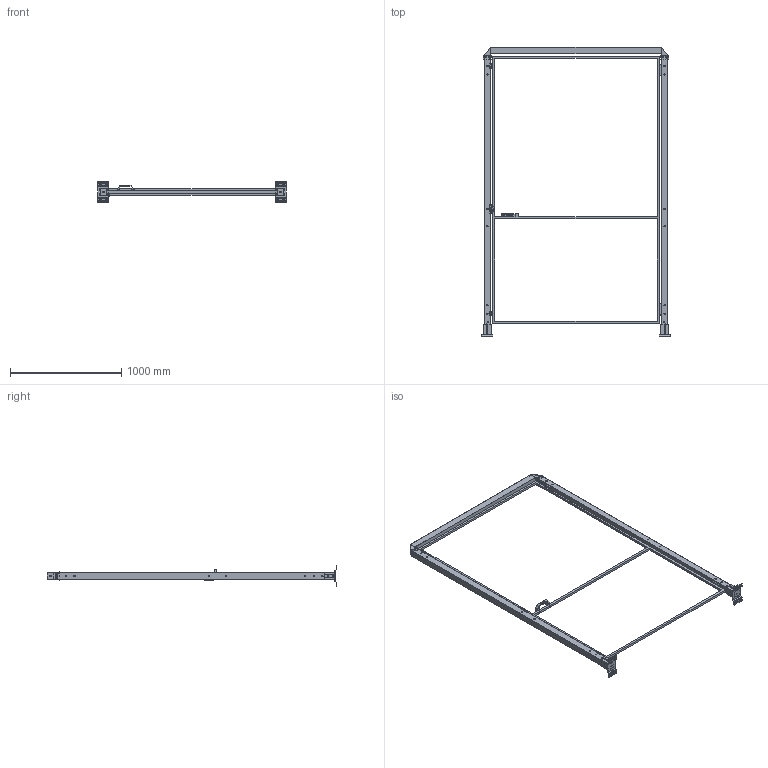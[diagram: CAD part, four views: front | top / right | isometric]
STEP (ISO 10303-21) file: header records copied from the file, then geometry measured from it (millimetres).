
FILE_DESCRIPTION(('STEP AP242'),'1');
FILE_NAME('vfda_bscncr2_15002520.stp','2025-01-31T11:17:41',('TraceParts'),('TraceParts S.A.'),'Spatial InterOp 3D',' ',' ');
FILE_SCHEMA(('AP242_MANAGED_MODEL_BASED_3D_ENGINEERING_MIM_LF {1 0 10303 442 1 1 4}'));
Length unit declared in the file: millimetre
Products named in the file (1): vfda_bscncr2_15002520_1
Bounding box: 1690 x 2601 x 192 mm (x, y, z)
Volume: 6538052.4 mm3; surface area: 4114460 mm2
Topology: 12 solids, 12 shells, 1942 faces, 5208 edges, 3340 vertices
Faces by surface type: plane 950, cylinder 652, bspline 236, cone 60, torus 40, sphere 4
Entity records: 78408 total; most frequent: CARTESIAN_POINT 14215, ORIENTED_EDGE 10408, DIRECTION 9578, EDGE_CURVE 5204, VERTEX_POINT 3340, LINE 3216, VECTOR 3216, AXIS2_PLACEMENT_3D 3181
